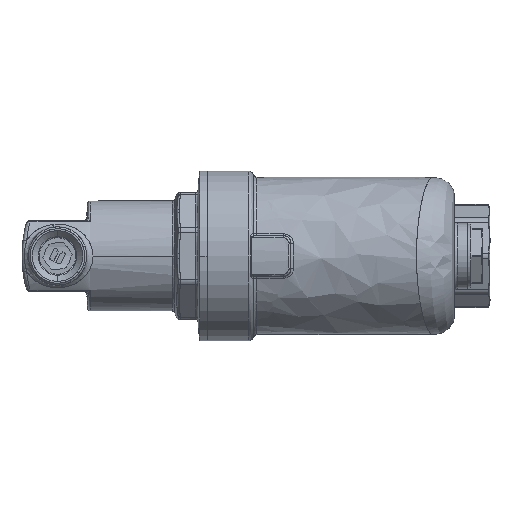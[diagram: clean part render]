
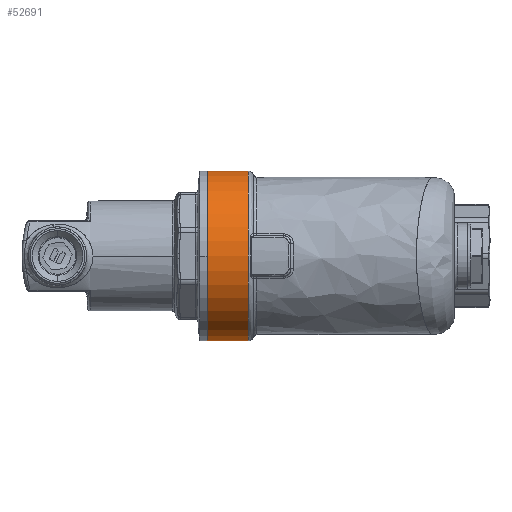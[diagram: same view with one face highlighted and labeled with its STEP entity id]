
A CAD part, left-side view. The second image highlights one B-rep face of the part: STEP entity #52691.
In plain terms, the highlighted free-form (B-spline) face has degree [1, 3] with [2, 4] control points.
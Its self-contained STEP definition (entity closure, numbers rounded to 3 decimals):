
#455 =( BOUNDED_SURFACE ( )  B_SPLINE_SURFACE ( 1, 3, ( 
 ( #22779, #9037, #3978, #31375 ),
 ( #26079, #58128, #35486, #12644 ) ),
 .UNSPECIFIED., .F., .F., .F. ) 
 B_SPLINE_SURFACE_WITH_KNOTS ( ( 2, 2 ),
 ( 4, 4 ),
 ( 0., 1. ),
 ( 0., 1. ),
 .UNSPECIFIED. ) 
 GEOMETRIC_REPRESENTATION_ITEM ( )  RATIONAL_B_SPLINE_SURFACE ( (
 ( 1., 0.333, 0.333, 1.),
 ( 1., 0.333, 0.333, 1.) ) ) 
 REPRESENTATION_ITEM ( '' )  SURFACE ( )  );
#1300 = CARTESIAN_POINT ( 'NONE',  ( 0., 54.405, 33.5 ) ) ;
#3978 = CARTESIAN_POINT ( 'NONE',  ( -67., 46.31, -33.5 ) ) ;
#5627 = EDGE_CURVE ( 'NONE', #29878, #9082, #9852, .T. ) ;
#7770 = ORIENTED_EDGE ( 'NONE', *, *, #49451, .T. ) ;
#8616 = CARTESIAN_POINT ( 'NONE',  ( 0., 46.31, 33.5 ) ) ;
#9037 = CARTESIAN_POINT ( 'NONE',  ( -67., 46.31, 33.5 ) ) ;
#9082 = VERTEX_POINT ( 'NONE', #45634 ) ;
#9852 = LINE ( 'NONE', #41658, #23606 ) ;
#10635 = CIRCLE ( 'NONE', #16331, 33.5 ) ;
#12529 = CARTESIAN_POINT ( 'NONE',  ( 0., 62.5, -33.5 ) ) ;
#12644 = CARTESIAN_POINT ( 'NONE',  ( 0., 62.5, -33.5 ) ) ;
#13986 = EDGE_CURVE ( 'NONE', #20734, #29878, #24417, .T. ) ;
#14083 = DIRECTION ( 'NONE',  ( 0., 0., -1. ) ) ;
#16331 = AXIS2_PLACEMENT_3D ( 'NONE', #53453, #58223, #50426 ) ;
#17092 = VECTOR ( 'NONE', #19502, 1000. ) ;
#19502 = DIRECTION ( 'NONE',  ( 0., 1., 0. ) ) ;
#20734 = VERTEX_POINT ( 'NONE', #55607 ) ;
#22779 = CARTESIAN_POINT ( 'NONE',  ( 0., 46.31, 33.5 ) ) ;
#23606 = VECTOR ( 'NONE', #55352, 1000. ) ;
#24417 = CIRCLE ( 'NONE', #39518, 33.5 ) ;
#26079 = CARTESIAN_POINT ( 'NONE',  ( 0., 62.5, 33.5 ) ) ;
#29878 = VERTEX_POINT ( 'NONE', #12529 ) ;
#31375 = CARTESIAN_POINT ( 'NONE',  ( 0., 46.31, -33.5 ) ) ;
#32606 = VERTEX_POINT ( 'NONE', #8616 ) ;
#35486 = CARTESIAN_POINT ( 'NONE',  ( -67., 62.5, -33.5 ) ) ;
#39291 = ORIENTED_EDGE ( 'NONE', *, *, #5627, .T. ) ;
#39518 = AXIS2_PLACEMENT_3D ( 'NONE', #46208, #54804, #14083 ) ;
#41658 = CARTESIAN_POINT ( 'NONE',  ( 0., 54.405, -33.5 ) ) ;
#42346 = EDGE_LOOP ( 'NONE', ( #58330, #39291, #7770, #42880 ) ) ;
#42880 = ORIENTED_EDGE ( 'NONE', *, *, #43387, .T. ) ;
#43387 = EDGE_CURVE ( 'NONE', #32606, #20734, #51044, .T. ) ;
#45634 = CARTESIAN_POINT ( 'NONE',  ( 0., 46.31, -33.5 ) ) ;
#46208 = CARTESIAN_POINT ( 'NONE',  ( 0., 62.5, 0. ) ) ;
#49451 = EDGE_CURVE ( 'NONE', #9082, #32606, #10635, .T. ) ;
#50426 = DIRECTION ( 'NONE',  ( 0., 0., -1. ) ) ;
#51044 = LINE ( 'NONE', #1300, #17092 ) ;
#52691 = ADVANCED_FACE ( 'NONE', ( #57832 ), #455, .T. ) ;
#53453 = CARTESIAN_POINT ( 'NONE',  ( 0., 46.31, 0. ) ) ;
#54804 = DIRECTION ( 'NONE',  ( 0., -1., 0. ) ) ;
#55352 = DIRECTION ( 'NONE',  ( 0., -1., 0. ) ) ;
#55607 = CARTESIAN_POINT ( 'NONE',  ( 0., 62.5, 33.5 ) ) ;
#57832 = FACE_OUTER_BOUND ( 'NONE', #42346, .T. ) ;
#58128 = CARTESIAN_POINT ( 'NONE',  ( -67., 62.5, 33.5 ) ) ;
#58223 = DIRECTION ( 'NONE',  ( 0., 1., 0. ) ) ;
#58330 = ORIENTED_EDGE ( 'NONE', *, *, #13986, .T. ) ;
